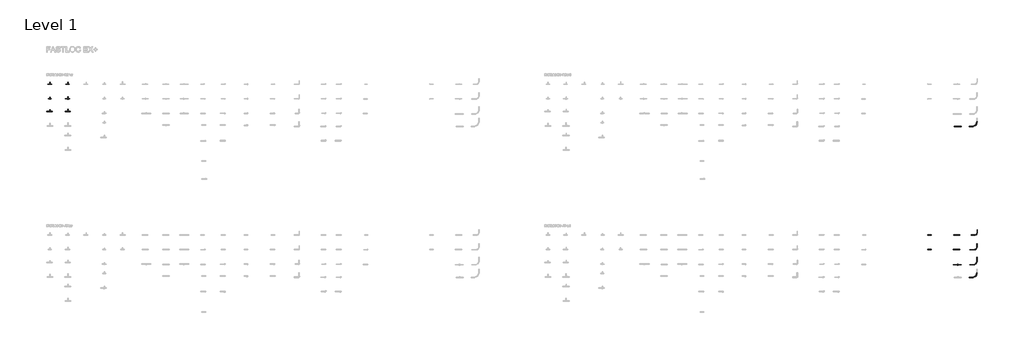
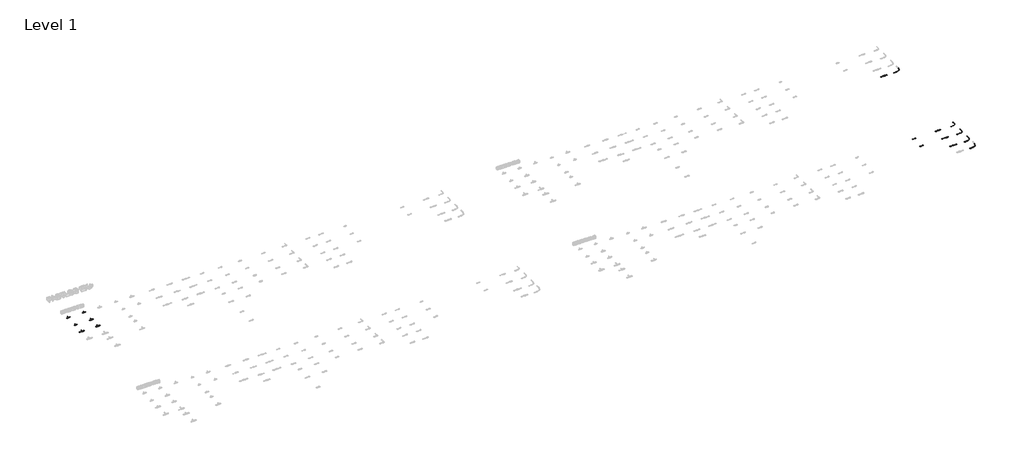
# One storey, part 10 of 16: 36 pipe segments, 21 pipe fittings.
"""IFC4 building model written with IfcOpenShell, lengths in millimetres."""

from ifc_helpers import new_model, si_unit, point, frame, frame_2d, origin, place, context, project, spatial, circle_curve, trimmed, segment, composite_curve, outline, extrude, transform, mapped, element, save
from components import pipe_fitting_c58dc389, pipe_fitting_6d1999ba, pipe_fitting_8a207ca9, pipe_fitting_749d9a03, pipe_fitting_c9c9eba3, pipe_fitting_037c3912, pipe_fitting_a8fbe6ac, pipe_fitting_373418fb, pipe_fitting_39b045f9, pipe_fitting_bf5c4f06, pipe_fitting_378a86a2, pipe_fitting_26206a52, pipe_fitting_e85672de, pipe_fitting_b8b68d19, pipe_fitting_24fba4d8, pipe_fitting_22a72f01, pipe_fitting_4892b1d5, pipe_fitting_48a19379, pipe_fitting_503ca6ef, pipe_fitting_0c2dddc6

model = new_model("IFC4")

# Units and contexts
model_context = context("Model", 3, world=origin())
ifc_project = project(units=[si_unit("LENGTHUNIT", "METRE", prefix="MILLI")], contexts=[model_context])

# Site, building, storey
site = spatial("IfcSite", under=ifc_project)
building = spatial("IfcBuilding", under=site)
storey = spatial("IfcBuildingStorey", under=building, Name="Level 1", Elevation=0.0)

# Pipe fittings
placement = place(None, origin())
pipe_fitting_shape = pipe_fitting_c58dc389(model_context)
element("IfcPipeFitting", 1, ObjectType="FASTLOC_Blanking plug EX+ : FSL Bp EX+ AT", at=placement, inside=storey, context=model_context, shape_type="MappedRepresentation", body=[
    mapped(pipe_fitting_shape, transform((49851.3241081, -6287.6479967, 0.0), x_axis=(1.0, 0.0, 0.0), y_axis=(0.0, 1.0, 0.0), z_axis=(0.0, 0.0, 1.0))),
])
pipe_fitting_2_shape = pipe_fitting_6d1999ba(model_context)
element("IfcPipeFitting", 2, ObjectType="FASTLOC_Adapter coupling EX+ : FSL TC EX+ AT", at=placement, inside=storey, context=model_context, shape_type="MappedRepresentation", body=[
    mapped(pipe_fitting_2_shape, transform((51491.3241081, -6287.6479967, 13.7), x_axis=(1.0, 0.0, 0.0), y_axis=(0.0, 1.0, 0.0), z_axis=(0.0, 0.0, 1.0))),
])
pipe_fitting_3_shape = pipe_fitting_8a207ca9(model_context)
element("IfcPipeFitting", 3, ObjectType="FASTLOC_ML_bend : FSL ML AT", at=placement, inside=storey, context=model_context, shape_type="MappedRepresentation", body=[
    mapped(pipe_fitting_3_shape, transform((52570.2040344, -6287.6479967, 0.0), x_axis=(1.0, 0.0, 0.0), y_axis=(0.0, 1.0, 0.0), z_axis=(0.0, 0.0, 1.0))),
])
pipe_fitting_4_shape = pipe_fitting_749d9a03(model_context)
element("IfcPipeFitting", 4, ObjectType="RAUTITAN_Sleeve PX : RTI S PX", at=placement, inside=storey, context=model_context, shape_type="MappedRepresentation", body=[
    mapped(pipe_fitting_4_shape, transform((51505.6241081, -7087.6479967, 13.7), x_axis=(1.0, 0.0, 0.0), y_axis=(0.0, 1.0, 0.0), z_axis=(0.0, 0.0, 1.0))),
])
pipe_fitting_5_shape = pipe_fitting_c9c9eba3(model_context)
element("IfcPipeFitting", 5, ObjectType="RAUTITAN_Sleeve PX : RTI S PX", at=placement, inside=storey, context=model_context, shape_type="MappedRepresentation", body=[
    mapped(pipe_fitting_5_shape, transform((51505.0241081, -6287.6479967, 13.7), x_axis=(1.0, 0.0, 0.0), y_axis=(0.0, 1.0, 0.0), z_axis=(0.0, 0.0, 1.0))),
])
pipe_fitting_6_shape = pipe_fitting_037c3912(model_context)
element("IfcPipeFitting", 6, ObjectType="RAUTITAN_Sleeve PX : RTI S PX", at=placement, inside=storey, context=model_context, shape_type="MappedRepresentation", body=[
    mapped(pipe_fitting_6_shape, transform((51507.9241081, -7918.854246, 13.7), x_axis=(1.0, 0.0, 0.0), y_axis=(0.0, 1.0, 0.0), z_axis=(0.0, 0.0, 1.0))),
])
pipe_fitting_7_shape = pipe_fitting_a8fbe6ac(model_context)
element("IfcPipeFitting", 7, ObjectType="RAUTITAN_Sleeve PX : RTI S PX", at=placement, inside=storey, context=model_context, shape_type="MappedRepresentation", body=[
    mapped(pipe_fitting_7_shape, transform((51510.6241081, -311.8142398, 13.7), x_axis=(1.0, 0.0, 0.0), y_axis=(0.0, 1.0, 0.0), z_axis=(0.0, 0.0, 1.0))),
])
pipe_fitting_8_shape = pipe_fitting_373418fb(model_context)
element("IfcPipeFitting", 8, ObjectType="FASTLOC_ML_bend : FSL ML DE", at=placement, inside=storey, context=model_context, shape_type="MappedRepresentation", body=[
    mapped(pipe_fitting_8_shape, transform((52570.2040344, -311.8142398, 0.0), x_axis=(1.0, 0.0, 0.0), y_axis=(0.0, 1.0, 0.0), z_axis=(0.0, 0.0, 1.0))),
])
pipe_fitting_9_shape = pipe_fitting_39b045f9(model_context)
element("IfcPipeFitting", 9, ObjectType="FASTLOC_ML_bend : FSL ML AT", at=placement, inside=storey, context=model_context, shape_type="MappedRepresentation", body=[
    mapped(pipe_fitting_9_shape, transform((52570.2040344, -7095.6479967, 0.0), x_axis=(1.0, 0.0, 0.0), y_axis=(0.0, 1.0, 0.0), z_axis=(0.0, 0.0, 1.0))),
])
pipe_fitting_10_shape = pipe_fitting_bf5c4f06(model_context)
element("IfcPipeFitting", 10, ObjectType="FASTLOC_ML_bend : FSL ML AT", at=placement, inside=storey, context=model_context, shape_type="MappedRepresentation", body=[
    mapped(pipe_fitting_10_shape, transform((52570.2040344, -7918.854246, 0.0), x_axis=(1.0, 0.0, 0.0), y_axis=(0.0, 1.0, 0.0), z_axis=(0.0, 0.0, 1.0))),
])
element("IfcPipeFitting", 11, ObjectType="FASTLOC_ML_bend : FSL ML AT", at=placement, inside=storey, context=model_context, shape_type="MappedRepresentation", body=[
    mapped(pipe_fitting_8_shape, transform((52570.2040344, -8611.8142398, 0.0), x_axis=(1.0, 0.0, 0.0), y_axis=(0.0, 1.0, 0.0), z_axis=(0.0, 0.0, 1.0))),
])
pipe_fitting_11_shape = pipe_fitting_378a86a2(model_context)
element("IfcPipeFitting", 12, ObjectType="FASTLOC_T-piece_EX+ : FSL T-Piece EX+ DE", at=placement, inside=storey, context=model_context, shape_type="MappedRepresentation", body=[
    mapped(pipe_fitting_11_shape, transform((1562.9146925, 2012.3520033, 0.0), x_axis=(1.0, 0.0, 0.0), y_axis=(0.0, 1.0, 0.0), z_axis=(0.0, 0.0, 1.0))),
])
pipe_fitting_12_shape = pipe_fitting_26206a52(model_context)
element("IfcPipeFitting", 13, ObjectType="FASTLOC_T-piece_EX+ : FSL T-Piece EX+ DE", at=placement, inside=storey, context=model_context, shape_type="MappedRepresentation", body=[
    mapped(pipe_fitting_12_shape, transform((1562.9146925, 1212.3520033, 0.0), x_axis=(1.0, 0.0, 0.0), y_axis=(0.0, 1.0, 0.0), z_axis=(0.0, 0.0, 1.0))),
])
pipe_fitting_13_shape = pipe_fitting_e85672de(model_context)
element("IfcPipeFitting", 14, ObjectType="FASTLOC_T-piece_EX+ : FSL T-Piece EX+ DE", at=placement, inside=storey, context=model_context, shape_type="MappedRepresentation", body=[
    mapped(pipe_fitting_13_shape, transform((1562.9146925, 512.3520033, 0.0), x_axis=(1.0, 0.0, 0.0), y_axis=(0.0, 1.0, 0.0), z_axis=(0.0, 0.0, 1.0))),
])
pipe_fitting_14_shape = pipe_fitting_b8b68d19(model_context)
element("IfcPipeFitting", 15, ObjectType="FASTLOC_T-piece_EX+ : FSL T-Piece EX+ DE", at=placement, inside=storey, context=model_context, shape_type="MappedRepresentation", body=[
    mapped(pipe_fitting_14_shape, transform((2562.9146925, 2012.3520033, 0.0), x_axis=(1.0, 0.0, 0.0), y_axis=(0.0, 1.0, 0.0), z_axis=(0.0, 0.0, 1.0))),
])
pipe_fitting_15_shape = pipe_fitting_24fba4d8(model_context)
element("IfcPipeFitting", 16, ObjectType="FASTLOC_T-piece_EX+ : FSL T-Piece EX+ DE", at=placement, inside=storey, context=model_context, shape_type="MappedRepresentation", body=[
    mapped(pipe_fitting_15_shape, transform((2562.9146925, 1212.3520033, 0.0), x_axis=(1.0, 0.0, 0.0), y_axis=(0.0, 1.0, 0.0), z_axis=(0.0, 0.0, 1.0))),
])
pipe_fitting_16_shape = pipe_fitting_22a72f01(model_context)
element("IfcPipeFitting", 17, ObjectType="FASTLOC_T-piece_EX+ : FSL T-Piece EX+ DE", at=placement, inside=storey, context=model_context, shape_type="MappedRepresentation", body=[
    mapped(pipe_fitting_16_shape, transform((2562.9146925, 512.3520033, 0.0), x_axis=(1.0, 0.0, 0.0), y_axis=(0.0, 1.0, 0.0), z_axis=(0.0, 0.0, 1.0))),
])
pipe_fitting_17_shape = pipe_fitting_4892b1d5(model_context)
element("IfcPipeFitting", 18, ObjectType="FASTLOC_Adapter coupling EX+ : FSL TC EX+ DE", at=placement, inside=storey, context=model_context, shape_type="MappedRepresentation", body=[
    mapped(pipe_fitting_17_shape, transform((51491.3241081, -311.8142398, 13.7), x_axis=(1.0, 0.0, 0.0), y_axis=(0.0, 1.0, 0.0), z_axis=(0.0, 0.0, 1.0))),
])
pipe_fitting_18_shape = pipe_fitting_48a19379(model_context)
element("IfcPipeFitting", 19, ObjectType="FASTLOC_Adapter coupling EX+ : FSL TC EX+ AT", at=placement, inside=storey, context=model_context, shape_type="MappedRepresentation", body=[
    mapped(pipe_fitting_18_shape, transform((51491.3241081, -7087.6479967, 13.7), x_axis=(1.0, 0.0, 0.0), y_axis=(0.0, 1.0, 0.0), z_axis=(0.0, 0.0, 1.0))),
])
pipe_fitting_19_shape = pipe_fitting_503ca6ef(model_context)
element("IfcPipeFitting", 20, ObjectType="FASTLOC_Adapter coupling EX+ : FSL TC EX+ AT", at=placement, inside=storey, context=model_context, shape_type="MappedRepresentation", body=[
    mapped(pipe_fitting_19_shape, transform((51491.3241081, -7918.854246, 13.7), x_axis=(1.0, 0.0, 0.0), y_axis=(0.0, 1.0, 0.0), z_axis=(0.0, 0.0, 1.0))),
])
pipe_fitting_20_shape = pipe_fitting_0c2dddc6(model_context)
element("IfcPipeFitting", 21, ObjectType="FASTLOC_Blanking plug EX+ : FSL Bp EX+ AT", at=placement, inside=storey, context=model_context, shape_type="MappedRepresentation", body=[
    mapped(pipe_fitting_20_shape, transform((49851.3241081, -7087.6479967, 0.0), x_axis=(1.0, 0.0, 0.0), y_axis=(0.0, 1.0, 0.0), z_axis=(0.0, 0.0, 1.0))),
])

# Pipe segments
element("IfcPipeSegment", 22, ObjectType="FASTLOC EX+ ML DE bar", at=placement, inside=storey, context=model_context, shape_type="SweptSolid", body=[
    extrude(outline(composite_curve([segment(trimmed(circle_curve(frame_2d((2012.3520033, 0.0)), 10.0), [point((2002.3520033, 0.0))], [point((2012.3520033, 10.0))], False, "CARTESIAN"), True, "CONTINUOUS"), segment(trimmed(circle_curve(frame_2d((2012.3520033, 0.0)), 10.0), [point((2012.3520033, 10.0))], [point((2022.3520033, 0.0))], False, "CARTESIAN"), True, "CONTINUOUS"), segment(trimmed(circle_curve(frame_2d((2012.3520033, 0.0)), 10.0), [point((2022.3520033, 0.0))], [point((2012.3520033, -10.0))], False, "CARTESIAN"), True, "CONTINUOUS"), segment(trimmed(circle_curve(frame_2d((2012.3520033, 0.0)), 10.0), [point((2012.3520033, -10.0))], [point((2002.3520033, 0.0))], False, "CARTESIAN"), True, "CONTINUOUS")], self_intersect=False)), frame((2578.2146925, 0.0, 0.0), z_axis=(1.0, 0.0, 0.0), x_axis=(0.0, 1.0, 0.0)), (0.0, 0.0, 1.0), 55.0),
])
element("IfcPipeSegment", 23, ObjectType="FASTLOC EX+ ML DE bar", at=placement, inside=storey, context=model_context, shape_type="SweptSolid", body=[
    extrude(outline(composite_curve([segment(trimmed(circle_curve(frame_2d((0.0, 2562.9146925)), 8.0), [point((0.0, 2570.9146925))], [point((8.0, 2562.9146925))], False, "CARTESIAN"), True, "CONTINUOUS"), segment(trimmed(circle_curve(frame_2d((0.0, 2562.9146925)), 8.0), [point((8.0, 2562.9146925))], [point((0.0, 2554.9146925))], False, "CARTESIAN"), True, "CONTINUOUS"), segment(trimmed(circle_curve(frame_2d((0.0, 2562.9146925)), 8.0), [point((0.0, 2554.9146925))], [point((-8.0, 2562.9146925))], False, "CARTESIAN"), True, "CONTINUOUS"), segment(trimmed(circle_curve(frame_2d((0.0, 2562.9146925)), 8.0), [point((-8.0, 2562.9146925))], [point((0.0, 2570.9146925))], False, "CARTESIAN"), True, "CONTINUOUS")], self_intersect=False)), frame((0.0, 2038.6520033, 0.0), z_axis=(0.0, 1.0, 0.0), x_axis=(0.0, 0.0, 1.0)), (0.0, 0.0, 1.0), 70.0),
])
element("IfcPipeSegment", 24, ObjectType="FASTLOC EX+ ML DE bar", at=placement, inside=storey, context=model_context, shape_type="SweptSolid", body=[
    extrude(outline(composite_curve([segment(trimmed(circle_curve(frame_2d((2012.3520033, 0.0)), 10.0), [point((2022.3520033, 0.0))], [point((2012.3520033, -10.0))], False, "CARTESIAN"), True, "CONTINUOUS"), segment(trimmed(circle_curve(frame_2d((2012.3520033, 0.0)), 10.0), [point((2012.3520033, -10.0))], [point((2002.3520033, 0.0))], False, "CARTESIAN"), True, "CONTINUOUS"), segment(trimmed(circle_curve(frame_2d((2012.3520033, 0.0)), 10.0), [point((2002.3520033, 0.0))], [point((2012.3520033, 10.0))], False, "CARTESIAN"), True, "CONTINUOUS"), segment(trimmed(circle_curve(frame_2d((2012.3520033, 0.0)), 10.0), [point((2012.3520033, 10.0))], [point((2022.3520033, 0.0))], False, "CARTESIAN"), True, "CONTINUOUS")], self_intersect=False)), frame((2437.6146925, 0.0, 0.0), z_axis=(1.0, 0.0, 0.0), x_axis=(0.0, 1.0, 0.0)), (0.0, 0.0, 1.0), 110.0),
])
element("IfcPipeSegment", 25, ObjectType="FASTLOC EX+ ML DE bar", at=placement, inside=storey, context=model_context, shape_type="SweptSolid", body=[
    extrude(outline(composite_curve([segment(trimmed(circle_curve(frame_2d((1212.3520033, 0.0)), 12.5), [point((1199.8520033, 0.0))], [point((1212.3520033, 12.5))], False, "CARTESIAN"), True, "CONTINUOUS"), segment(trimmed(circle_curve(frame_2d((1212.3520033, 0.0)), 12.5), [point((1212.3520033, 12.5))], [point((1224.8520033, 0.0))], False, "CARTESIAN"), True, "CONTINUOUS"), segment(trimmed(circle_curve(frame_2d((1212.3520033, 0.0)), 12.5), [point((1224.8520033, 0.0))], [point((1212.3520033, -12.5))], False, "CARTESIAN"), True, "CONTINUOUS"), segment(trimmed(circle_curve(frame_2d((1212.3520033, 0.0)), 12.5), [point((1212.3520033, -12.5))], [point((1199.8520033, 0.0))], False, "CARTESIAN"), True, "CONTINUOUS")], self_intersect=False)), frame((2581.0146925, 0.0, 0.0), z_axis=(1.0, 0.0, 0.0), x_axis=(0.0, 1.0, 0.0)), (0.0, 0.0, 1.0), 80.0),
])
element("IfcPipeSegment", 26, ObjectType="FASTLOC EX+ ML DE bar", at=placement, inside=storey, context=model_context, shape_type="SweptSolid", body=[
    extrude(outline(composite_curve([segment(trimmed(circle_curve(frame_2d((0.0, 2562.9146925)), 10.0), [point((0.0, 2572.9146925))], [point((10.0, 2562.9146925))], False, "CARTESIAN"), True, "CONTINUOUS"), segment(trimmed(circle_curve(frame_2d((0.0, 2562.9146925)), 10.0), [point((10.0, 2562.9146925))], [point((0.0, 2552.9146925))], False, "CARTESIAN"), True, "CONTINUOUS"), segment(trimmed(circle_curve(frame_2d((0.0, 2562.9146925)), 10.0), [point((0.0, 2552.9146925))], [point((-10.0, 2562.9146925))], False, "CARTESIAN"), True, "CONTINUOUS"), segment(trimmed(circle_curve(frame_2d((0.0, 2562.9146925)), 10.0), [point((-10.0, 2562.9146925))], [point((0.0, 2572.9146925))], False, "CARTESIAN"), True, "CONTINUOUS")], self_intersect=False)), frame((0.0, 1241.5520033, 0.0), z_axis=(0.0, 1.0, 0.0), x_axis=(0.0, 0.0, 1.0)), (0.0, 0.0, 1.0), 90.0),
])
element("IfcPipeSegment", 27, ObjectType="FASTLOC EX+ ML DE bar", at=placement, inside=storey, context=model_context, shape_type="SweptSolid", body=[
    extrude(outline(composite_curve([segment(trimmed(circle_curve(frame_2d((1212.3520033, 0.0)), 12.5), [point((1224.8520033, 0.0))], [point((1212.3520033, -12.5))], False, "CARTESIAN"), True, "CONTINUOUS"), segment(trimmed(circle_curve(frame_2d((1212.3520033, 0.0)), 12.5), [point((1212.3520033, -12.5))], [point((1199.8520033, 0.0))], False, "CARTESIAN"), True, "CONTINUOUS"), segment(trimmed(circle_curve(frame_2d((1212.3520033, 0.0)), 12.5), [point((1199.8520033, 0.0))], [point((1212.3520033, 12.5))], False, "CARTESIAN"), True, "CONTINUOUS"), segment(trimmed(circle_curve(frame_2d((1212.3520033, 0.0)), 12.5), [point((1212.3520033, 12.5))], [point((1224.8520033, 0.0))], False, "CARTESIAN"), True, "CONTINUOUS")], self_intersect=False)), frame((2409.8146925, 0.0, 0.0), z_axis=(1.0, 0.0, 0.0), x_axis=(0.0, 1.0, 0.0)), (0.0, 0.0, 1.0), 135.0),
])
element("IfcPipeSegment", 28, ObjectType="FASTLOC EX+ ML DE bar", at=placement, inside=storey, context=model_context, shape_type="SweptSolid", body=[
    extrude(outline(composite_curve([segment(trimmed(circle_curve(frame_2d((512.3520033, 0.0)), 16.0), [point((496.3520033, 0.0))], [point((512.3520033, 16.0))], False, "CARTESIAN"), True, "CONTINUOUS"), segment(trimmed(circle_curve(frame_2d((512.3520033, 0.0)), 16.0), [point((512.3520033, 16.0))], [point((528.3520033, 0.0))], False, "CARTESIAN"), True, "CONTINUOUS"), segment(trimmed(circle_curve(frame_2d((512.3520033, 0.0)), 16.0), [point((528.3520033, 0.0))], [point((512.3520033, -16.0))], False, "CARTESIAN"), True, "CONTINUOUS"), segment(trimmed(circle_curve(frame_2d((512.3520033, 0.0)), 16.0), [point((512.3520033, -16.0))], [point((496.3520033, 0.0))], False, "CARTESIAN"), True, "CONTINUOUS")], self_intersect=False)), frame((2581.2146925, 0.0, 0.0), z_axis=(1.0, 0.0, 0.0), x_axis=(0.0, 1.0, 0.0)), (0.0, 0.0, 1.0), 90.0),
])
element("IfcPipeSegment", 29, ObjectType="FASTLOC EX+ ML DE bar", at=placement, inside=storey, context=model_context, shape_type="SweptSolid", body=[
    extrude(outline(composite_curve([segment(trimmed(circle_curve(frame_2d((0.0, 2562.9146925)), 8.0), [point((0.0, 2570.9146925))], [point((8.0, 2562.9146925))], False, "CARTESIAN"), True, "CONTINUOUS"), segment(trimmed(circle_curve(frame_2d((0.0, 2562.9146925)), 8.0), [point((8.0, 2562.9146925))], [point((0.0, 2554.9146925))], False, "CARTESIAN"), True, "CONTINUOUS"), segment(trimmed(circle_curve(frame_2d((0.0, 2562.9146925)), 8.0), [point((0.0, 2554.9146925))], [point((-8.0, 2562.9146925))], False, "CARTESIAN"), True, "CONTINUOUS"), segment(trimmed(circle_curve(frame_2d((0.0, 2562.9146925)), 8.0), [point((-8.0, 2562.9146925))], [point((0.0, 2570.9146925))], False, "CARTESIAN"), True, "CONTINUOUS")], self_intersect=False)), frame((0.0, 546.2520033, 0.0), z_axis=(0.0, 1.0, 0.0), x_axis=(0.0, 0.0, 1.0)), (0.0, 0.0, 1.0), 90.0),
])
element("IfcPipeSegment", 30, ObjectType="FASTLOC EX+ ML DE bar", at=placement, inside=storey, context=model_context, shape_type="SweptSolid", body=[
    extrude(outline(composite_curve([segment(trimmed(circle_curve(frame_2d((512.3520033, 0.0)), 16.0), [point((528.3520033, 0.0))], [point((512.3520033, -16.0))], False, "CARTESIAN"), True, "CONTINUOUS"), segment(trimmed(circle_curve(frame_2d((512.3520033, 0.0)), 16.0), [point((512.3520033, -16.0))], [point((496.3520033, 0.0))], False, "CARTESIAN"), True, "CONTINUOUS"), segment(trimmed(circle_curve(frame_2d((512.3520033, 0.0)), 16.0), [point((496.3520033, 0.0))], [point((512.3520033, 16.0))], False, "CARTESIAN"), True, "CONTINUOUS"), segment(trimmed(circle_curve(frame_2d((512.3520033, 0.0)), 16.0), [point((512.3520033, 16.0))], [point((528.3520033, 0.0))], False, "CARTESIAN"), True, "CONTINUOUS")], self_intersect=False)), frame((2414.6146925, 0.0, 0.0), z_axis=(1.0, 0.0, 0.0), x_axis=(0.0, 1.0, 0.0)), (0.0, 0.0, 1.0), 130.0),
])
element("IfcPipeSegment", 31, ObjectType="FASTLOC EX+ ML DE bar", at=placement, inside=storey, context=model_context, shape_type="SweptSolid", body=[
    extrude(outline(composite_curve([segment(trimmed(circle_curve(frame_2d((0.0, 1562.9146925)), 12.5), [point((0.0, 1575.4146925))], [point((12.5, 1562.9146925))], False, "CARTESIAN"), True, "CONTINUOUS"), segment(trimmed(circle_curve(frame_2d((0.0, 1562.9146925)), 12.5), [point((12.5, 1562.9146925))], [point((0.0, 1550.4146925))], False, "CARTESIAN"), True, "CONTINUOUS"), segment(trimmed(circle_curve(frame_2d((0.0, 1562.9146925)), 12.5), [point((0.0, 1550.4146925))], [point((-12.5, 1562.9146925))], False, "CARTESIAN"), True, "CONTINUOUS"), segment(trimmed(circle_curve(frame_2d((0.0, 1562.9146925)), 12.5), [point((-12.5, 1562.9146925))], [point((0.0, 1575.4146925))], False, "CARTESIAN"), True, "CONTINUOUS")], self_intersect=False)), frame((0.0, 541.8520033, 0.0), z_axis=(0.0, 1.0, 0.0), x_axis=(0.0, 0.0, 1.0)), (0.0, 0.0, 1.0), 70.0),
])
element("IfcPipeSegment", 32, ObjectType="FASTLOC EX+ ML DE bar", at=placement, inside=storey, context=model_context, shape_type="SweptSolid", body=[
    extrude(outline(composite_curve([segment(trimmed(circle_curve(frame_2d((512.3520033, 0.0)), 12.5), [point((499.8520033, 0.0))], [point((512.3520033, 12.5))], False, "CARTESIAN"), True, "CONTINUOUS"), segment(trimmed(circle_curve(frame_2d((512.3520033, 0.0)), 12.5), [point((512.3520033, 12.5))], [point((524.8520033, 0.0))], False, "CARTESIAN"), True, "CONTINUOUS"), segment(trimmed(circle_curve(frame_2d((512.3520033, 0.0)), 12.5), [point((524.8520033, 0.0))], [point((512.3520033, -12.5))], False, "CARTESIAN"), True, "CONTINUOUS"), segment(trimmed(circle_curve(frame_2d((512.3520033, 0.0)), 12.5), [point((512.3520033, -12.5))], [point((499.8520033, 0.0))], False, "CARTESIAN"), True, "CONTINUOUS")], self_intersect=False)), frame((1582.8146925, 0.0, 0.0), z_axis=(1.0, 0.0, 0.0), x_axis=(0.0, 1.0, 0.0)), (0.0, 0.0, 1.0), 105.0),
])
element("IfcPipeSegment", 33, ObjectType="FASTLOC EX+ ML DE bar", at=placement, inside=storey, context=model_context, shape_type="SweptSolid", body=[
    extrude(outline(composite_curve([segment(trimmed(circle_curve(frame_2d((512.3520033, 0.0)), 12.5), [point((524.8520033, 0.0))], [point((512.3520033, -12.5))], False, "CARTESIAN"), True, "CONTINUOUS"), segment(trimmed(circle_curve(frame_2d((512.3520033, 0.0)), 12.5), [point((512.3520033, -12.5))], [point((499.8520033, 0.0))], False, "CARTESIAN"), True, "CONTINUOUS"), segment(trimmed(circle_curve(frame_2d((512.3520033, 0.0)), 12.5), [point((499.8520033, 0.0))], [point((512.3520033, 12.5))], False, "CARTESIAN"), True, "CONTINUOUS"), segment(trimmed(circle_curve(frame_2d((512.3520033, 0.0)), 12.5), [point((512.3520033, 12.5))], [point((524.8520033, 0.0))], False, "CARTESIAN"), True, "CONTINUOUS")], self_intersect=False)), frame((1378.0146925, 0.0, 0.0), z_axis=(1.0, 0.0, 0.0), x_axis=(0.0, 1.0, 0.0)), (0.0, 0.0, 1.0), 165.0),
])
element("IfcPipeSegment", 34, ObjectType="FASTLOC EX+ ML DE bar", at=placement, inside=storey, context=model_context, shape_type="SweptSolid", body=[
    extrude(outline(composite_curve([segment(trimmed(circle_curve(frame_2d((1212.3520033, 0.0)), 10.0), [point((1202.3520033, 0.0))], [point((1212.3520033, 10.0))], False, "CARTESIAN"), True, "CONTINUOUS"), segment(trimmed(circle_curve(frame_2d((1212.3520033, 0.0)), 10.0), [point((1212.3520033, 10.0))], [point((1222.3520033, 0.0))], False, "CARTESIAN"), True, "CONTINUOUS"), segment(trimmed(circle_curve(frame_2d((1212.3520033, 0.0)), 10.0), [point((1222.3520033, 0.0))], [point((1212.3520033, -10.0))], False, "CARTESIAN"), True, "CONTINUOUS"), segment(trimmed(circle_curve(frame_2d((1212.3520033, 0.0)), 10.0), [point((1212.3520033, -10.0))], [point((1202.3520033, 0.0))], False, "CARTESIAN"), True, "CONTINUOUS")], self_intersect=False)), frame((1580.1146925, 0.0, 0.0), z_axis=(1.0, 0.0, 0.0), x_axis=(0.0, 1.0, 0.0)), (0.0, 0.0, 1.0), 65.0),
])
element("IfcPipeSegment", 35, ObjectType="FASTLOC EX+ ML DE bar", at=placement, inside=storey, context=model_context, shape_type="SweptSolid", body=[
    extrude(outline(composite_curve([segment(trimmed(circle_curve(frame_2d((0.0, 1562.9146925)), 10.0), [point((0.0, 1572.9146925))], [point((10.0, 1562.9146925))], False, "CARTESIAN"), True, "CONTINUOUS"), segment(trimmed(circle_curve(frame_2d((0.0, 1562.9146925)), 10.0), [point((10.0, 1562.9146925))], [point((0.0, 1552.9146925))], False, "CARTESIAN"), True, "CONTINUOUS"), segment(trimmed(circle_curve(frame_2d((0.0, 1562.9146925)), 10.0), [point((0.0, 1552.9146925))], [point((-10.0, 1562.9146925))], False, "CARTESIAN"), True, "CONTINUOUS"), segment(trimmed(circle_curve(frame_2d((0.0, 1562.9146925)), 10.0), [point((-10.0, 1562.9146925))], [point((0.0, 1572.9146925))], False, "CARTESIAN"), True, "CONTINUOUS")], self_intersect=False)), frame((0.0, 1238.7520033, 0.0), z_axis=(0.0, 1.0, 0.0), x_axis=(0.0, 0.0, 1.0)), (0.0, 0.0, 1.0), 65.0),
])
element("IfcPipeSegment", 36, ObjectType="FASTLOC EX+ ML DE bar", at=placement, inside=storey, context=model_context, shape_type="SweptSolid", body=[
    extrude(outline(composite_curve([segment(trimmed(circle_curve(frame_2d((1212.3520033, 0.0)), 10.0), [point((1222.3520033, 0.0))], [point((1212.3520033, -10.0))], False, "CARTESIAN"), True, "CONTINUOUS"), segment(trimmed(circle_curve(frame_2d((1212.3520033, 0.0)), 10.0), [point((1212.3520033, -10.0))], [point((1202.3520033, 0.0))], False, "CARTESIAN"), True, "CONTINUOUS"), segment(trimmed(circle_curve(frame_2d((1212.3520033, 0.0)), 10.0), [point((1202.3520033, 0.0))], [point((1212.3520033, 10.0))], False, "CARTESIAN"), True, "CONTINUOUS"), segment(trimmed(circle_curve(frame_2d((1212.3520033, 0.0)), 10.0), [point((1212.3520033, 10.0))], [point((1222.3520033, 0.0))], False, "CARTESIAN"), True, "CONTINUOUS")], self_intersect=False)), frame((1460.7146925, 0.0, 0.0), z_axis=(1.0, 0.0, 0.0), x_axis=(0.0, 1.0, 0.0)), (0.0, 0.0, 1.0), 85.0),
])
element("IfcPipeSegment", 37, ObjectType="FASTLOC EX+ ML DE bar", at=placement, inside=storey, context=model_context, shape_type="SweptSolid", body=[
    extrude(outline(composite_curve([segment(trimmed(circle_curve(frame_2d((2012.3520033, 0.0)), 8.0), [point((2004.3520033, 0.0))], [point((2012.3520033, 8.0))], False, "CARTESIAN"), True, "CONTINUOUS"), segment(trimmed(circle_curve(frame_2d((2012.3520033, 0.0)), 8.0), [point((2012.3520033, 8.0))], [point((2020.3520033, 0.0))], False, "CARTESIAN"), True, "CONTINUOUS"), segment(trimmed(circle_curve(frame_2d((2012.3520033, 0.0)), 8.0), [point((2020.3520033, 0.0))], [point((2012.3520033, -8.0))], False, "CARTESIAN"), True, "CONTINUOUS"), segment(trimmed(circle_curve(frame_2d((2012.3520033, 0.0)), 8.0), [point((2012.3520033, -8.0))], [point((2004.3520033, 0.0))], False, "CARTESIAN"), True, "CONTINUOUS")], self_intersect=False)), frame((1577.9146925, 0.0, 0.0), z_axis=(1.0, 0.0, 0.0), x_axis=(0.0, 1.0, 0.0)), (0.0, 0.0, 1.0), 90.0),
])
element("IfcPipeSegment", 38, ObjectType="FASTLOC EX+ ML AT bar", at=placement, inside=storey, context=model_context, shape_type="SweptSolid", body=[
    extrude(outline(composite_curve([segment(trimmed(circle_curve(frame_2d((2012.3520033, 0.0)), 8.0), [point((2020.3520033, 0.0))], [point((2012.3520033, -8.0))], False, "CARTESIAN"), True, "CONTINUOUS"), segment(trimmed(circle_curve(frame_2d((2012.3520033, 0.0)), 8.0), [point((2012.3520033, -8.0))], [point((2004.3520033, 0.0))], False, "CARTESIAN"), True, "CONTINUOUS"), segment(trimmed(circle_curve(frame_2d((2012.3520033, 0.0)), 8.0), [point((2004.3520033, 0.0))], [point((2012.3520033, 8.0))], False, "CARTESIAN"), True, "CONTINUOUS"), segment(trimmed(circle_curve(frame_2d((2012.3520033, 0.0)), 8.0), [point((2012.3520033, 8.0))], [point((2020.3520033, 0.0))], False, "CARTESIAN"), True, "CONTINUOUS")], self_intersect=False)), frame((1457.9146925, 0.0, 0.0), z_axis=(1.0, 0.0, 0.0), x_axis=(0.0, 1.0, 0.0)), (0.0, 0.0, 1.0), 90.0),
])
element("IfcPipeSegment", 39, ObjectType="FASTLOC EX+ ML DE bar", at=placement, inside=storey, context=model_context, shape_type="SweptSolid", body=[
    extrude(outline(composite_curve([segment(trimmed(circle_curve(frame_2d((0.0, 1562.9146925)), 8.0), [point((0.0, 1570.9146925))], [point((8.0, 1562.9146925))], False, "CARTESIAN"), True, "CONTINUOUS"), segment(trimmed(circle_curve(frame_2d((0.0, 1562.9146925)), 8.0), [point((8.0, 1562.9146925))], [point((0.0, 1554.9146925))], False, "CARTESIAN"), True, "CONTINUOUS"), segment(trimmed(circle_curve(frame_2d((0.0, 1562.9146925)), 8.0), [point((0.0, 1554.9146925))], [point((-8.0, 1562.9146925))], False, "CARTESIAN"), True, "CONTINUOUS"), segment(trimmed(circle_curve(frame_2d((0.0, 1562.9146925)), 8.0), [point((-8.0, 1562.9146925))], [point((0.0, 1570.9146925))], False, "CARTESIAN"), True, "CONTINUOUS")], self_intersect=False)), frame((0.0, 2034.4520033, 0.0), z_axis=(0.0, 1.0, 0.0), x_axis=(0.0, 0.0, 1.0)), (0.0, 0.0, 1.0), 95.0),
])
element("IfcPipeSegment", 40, ObjectType="FASTLOC EX+ ML DE coil", at=placement, inside=storey, context=model_context, shape_type="SweptSolid", body=[
    extrude(outline(composite_curve([segment(trimmed(circle_curve(frame_2d((-311.8142398, 0.0)), 16.0), [point((-295.8142398, 0.0))], [point((-311.8142398, -16.0))], False, "CARTESIAN"), True, "CONTINUOUS"), segment(trimmed(circle_curve(frame_2d((-311.8142398, 0.0)), 16.0), [point((-311.8142398, -16.0))], [point((-327.8142398, 0.0))], False, "CARTESIAN"), True, "CONTINUOUS"), segment(trimmed(circle_curve(frame_2d((-311.8142398, 0.0)), 16.0), [point((-327.8142398, 0.0))], [point((-311.8142398, 16.0))], False, "CARTESIAN"), True, "CONTINUOUS"), segment(trimmed(circle_curve(frame_2d((-311.8142398, 0.0)), 16.0), [point((-311.8142398, 16.0))], [point((-295.8142398, 0.0))], False, "CARTESIAN"), True, "CONTINUOUS")], self_intersect=False)), frame((52130.2040344, 0.0, 0.0), z_axis=(1.0, 0.0, 0.0), x_axis=(0.0, 1.0, 0.0)), (0.0, 0.0, 1.0), 184.0),
])
element("IfcPipeSegment", 41, ObjectType="FASTLOC EX+ ML DE coil", at=placement, inside=storey, context=model_context, shape_type="SweptSolid", body=[
    extrude(outline(composite_curve([segment(trimmed(circle_curve(frame_2d((-311.8142398, 13.7)), 16.0), [point((-327.8142398, 13.7))], [point((-311.8142398, 29.7))], False, "CARTESIAN"), True, "CONTINUOUS"), segment(trimmed(circle_curve(frame_2d((-311.8142398, 13.7)), 16.0), [point((-311.8142398, 29.7))], [point((-295.8142398, 13.7))], False, "CARTESIAN"), True, "CONTINUOUS"), segment(trimmed(circle_curve(frame_2d((-311.8142398, 13.7)), 16.0), [point((-295.8142398, 13.7))], [point((-311.8142398, -2.3))], False, "CARTESIAN"), True, "CONTINUOUS"), segment(trimmed(circle_curve(frame_2d((-311.8142398, 13.7)), 16.0), [point((-311.8142398, -2.3))], [point((-327.8142398, 13.7))], False, "CARTESIAN"), True, "CONTINUOUS")], self_intersect=False)), frame((51510.6241081, 0.0, 0.0), z_axis=(1.0, 0.0, 0.0), x_axis=(0.0, 1.0, 0.0)), (0.0, 0.0, 1.0), 180.0),
])
element("IfcPipeSegment", 42, ObjectType="FASTLOC EX+ ML DE coil", at=placement, inside=storey, context=model_context, shape_type="SweptSolid", body=[
    extrude(outline(composite_curve([segment(trimmed(circle_curve(frame_2d((-311.8142398, 13.7)), 16.0), [point((-295.8142398, 13.7))], [point((-311.8142398, -2.3))], False, "CARTESIAN"), True, "CONTINUOUS"), segment(trimmed(circle_curve(frame_2d((-311.8142398, 13.7)), 16.0), [point((-311.8142398, -2.3))], [point((-327.8142398, 13.7))], False, "CARTESIAN"), True, "CONTINUOUS"), segment(trimmed(circle_curve(frame_2d((-311.8142398, 13.7)), 16.0), [point((-327.8142398, 13.7))], [point((-311.8142398, 29.7))], False, "CARTESIAN"), True, "CONTINUOUS"), segment(trimmed(circle_curve(frame_2d((-311.8142398, 13.7)), 16.0), [point((-311.8142398, 29.7))], [point((-295.8142398, 13.7))], False, "CARTESIAN"), True, "CONTINUOUS")], self_intersect=False)), frame((51305.8241081, 0.0, 0.0), z_axis=(1.0, 0.0, 0.0), x_axis=(0.0, 1.0, 0.0)), (0.0, 0.0, 1.0), 180.0),
])
element("IfcPipeSegment", 43, ObjectType="FASTLOC EX+ ML AT coil", at=placement, inside=storey, context=model_context, shape_type="SweptSolid", body=[
    extrude(outline(composite_curve([segment(trimmed(circle_curve(frame_2d((0.0, 52570.2040344)), 8.0), [point((0.0, 52578.2040344))], [point((8.0, 52570.2040344))], False, "CARTESIAN"), True, "CONTINUOUS"), segment(trimmed(circle_curve(frame_2d((0.0, 52570.2040344)), 8.0), [point((8.0, 52570.2040344))], [point((0.0, 52562.2040344))], False, "CARTESIAN"), True, "CONTINUOUS"), segment(trimmed(circle_curve(frame_2d((0.0, 52570.2040344)), 8.0), [point((0.0, 52562.2040344))], [point((-8.0, 52570.2040344))], False, "CARTESIAN"), True, "CONTINUOUS"), segment(trimmed(circle_curve(frame_2d((0.0, 52570.2040344)), 8.0), [point((-8.0, 52570.2040344))], [point((0.0, 52578.2040344))], False, "CARTESIAN"), True, "CONTINUOUS")], self_intersect=False)), frame((0.0, -6159.6479967, 0.0), z_axis=(0.0, 1.0, 0.0), x_axis=(0.0, 0.0, 1.0)), (0.0, 0.0, 1.0), 160.0),
])
element("IfcPipeSegment", 44, ObjectType="FASTLOC EX+ ML AT coil", at=placement, inside=storey, context=model_context, shape_type="SweptSolid", body=[
    extrude(outline(composite_curve([segment(trimmed(circle_curve(frame_2d((-6287.6479967, 0.0)), 8.0), [point((-6279.6479967, 0.0))], [point((-6287.6479967, -8.0))], False, "CARTESIAN"), True, "CONTINUOUS"), segment(trimmed(circle_curve(frame_2d((-6287.6479967, 0.0)), 8.0), [point((-6287.6479967, -8.0))], [point((-6295.6479967, 0.0))], False, "CARTESIAN"), True, "CONTINUOUS"), segment(trimmed(circle_curve(frame_2d((-6287.6479967, 0.0)), 8.0), [point((-6295.6479967, 0.0))], [point((-6287.6479967, 8.0))], False, "CARTESIAN"), True, "CONTINUOUS"), segment(trimmed(circle_curve(frame_2d((-6287.6479967, 0.0)), 8.0), [point((-6287.6479967, 8.0))], [point((-6279.6479967, 0.0))], False, "CARTESIAN"), True, "CONTINUOUS")], self_intersect=False)), frame((52250.2040344, 0.0, 0.0), z_axis=(1.0, 0.0, 0.0), x_axis=(0.0, 1.0, 0.0)), (0.0, 0.0, 1.0), 192.0),
])
element("IfcPipeSegment", 45, ObjectType="FASTLOC EX+ ML AT coil", at=placement, inside=storey, context=model_context, shape_type="SweptSolid", body=[
    extrude(outline(composite_curve([segment(trimmed(circle_curve(frame_2d((0.0, 52570.2040344)), 10.0), [point((0.0, 52580.2040344))], [point((10.0, 52570.2040344))], False, "CARTESIAN"), True, "CONTINUOUS"), segment(trimmed(circle_curve(frame_2d((0.0, 52570.2040344)), 10.0), [point((10.0, 52570.2040344))], [point((0.0, 52560.2040344))], False, "CARTESIAN"), True, "CONTINUOUS"), segment(trimmed(circle_curve(frame_2d((0.0, 52570.2040344)), 10.0), [point((0.0, 52560.2040344))], [point((-10.0, 52570.2040344))], False, "CARTESIAN"), True, "CONTINUOUS"), segment(trimmed(circle_curve(frame_2d((0.0, 52570.2040344)), 10.0), [point((-10.0, 52570.2040344))], [point((0.0, 52580.2040344))], False, "CARTESIAN"), True, "CONTINUOUS")], self_intersect=False)), frame((0.0, -6935.6479967, 0.0), z_axis=(0.0, 1.0, 0.0), x_axis=(0.0, 0.0, 1.0)), (0.0, 0.0, 1.0), 180.0),
])
element("IfcPipeSegment", 46, ObjectType="FASTLOC EX+ ML AT coil", at=placement, inside=storey, context=model_context, shape_type="SweptSolid", body=[
    extrude(outline(composite_curve([segment(trimmed(circle_curve(frame_2d((-7095.6479967, 0.0)), 10.0), [point((-7085.6479967, 0.0))], [point((-7095.6479967, -10.0))], False, "CARTESIAN"), True, "CONTINUOUS"), segment(trimmed(circle_curve(frame_2d((-7095.6479967, 0.0)), 10.0), [point((-7095.6479967, -10.0))], [point((-7105.6479967, 0.0))], False, "CARTESIAN"), True, "CONTINUOUS"), segment(trimmed(circle_curve(frame_2d((-7095.6479967, 0.0)), 10.0), [point((-7105.6479967, 0.0))], [point((-7095.6479967, 10.0))], False, "CARTESIAN"), True, "CONTINUOUS"), segment(trimmed(circle_curve(frame_2d((-7095.6479967, 0.0)), 10.0), [point((-7095.6479967, 10.0))], [point((-7085.6479967, 0.0))], False, "CARTESIAN"), True, "CONTINUOUS")], self_intersect=False)), frame((52170.2040344, 0.0, 0.0), z_axis=(1.0, 0.0, 0.0), x_axis=(0.0, 1.0, 0.0)), (0.0, 0.0, 1.0), 240.0),
])
element("IfcPipeSegment", 47, ObjectType="FASTLOC EX+ ML AT coil", at=placement, inside=storey, context=model_context, shape_type="SweptSolid", body=[
    extrude(outline(composite_curve([segment(trimmed(circle_curve(frame_2d((0.0, 52570.2040344)), 12.5), [point((0.0, 52582.7040344))], [point((12.5, 52570.2040344))], False, "CARTESIAN"), True, "CONTINUOUS"), segment(trimmed(circle_curve(frame_2d((0.0, 52570.2040344)), 12.5), [point((12.5, 52570.2040344))], [point((0.0, 52557.7040344))], False, "CARTESIAN"), True, "CONTINUOUS"), segment(trimmed(circle_curve(frame_2d((0.0, 52570.2040344)), 12.5), [point((0.0, 52557.7040344))], [point((-12.5, 52570.2040344))], False, "CARTESIAN"), True, "CONTINUOUS"), segment(trimmed(circle_curve(frame_2d((0.0, 52570.2040344)), 12.5), [point((-12.5, 52570.2040344))], [point((0.0, 52582.7040344))], False, "CARTESIAN"), True, "CONTINUOUS")], self_intersect=False)), frame((0.0, -7718.854246, 0.0), z_axis=(0.0, 1.0, 0.0), x_axis=(0.0, 0.0, 1.0)), (0.0, 0.0, 1.0), 200.0),
])
element("IfcPipeSegment", 48, ObjectType="FASTLOC EX+ ML AT coil", at=placement, inside=storey, context=model_context, shape_type="SweptSolid", body=[
    extrude(outline(composite_curve([segment(trimmed(circle_curve(frame_2d((-7918.854246, 0.0)), 12.5), [point((-7906.354246, 0.0))], [point((-7918.854246, -12.5))], False, "CARTESIAN"), True, "CONTINUOUS"), segment(trimmed(circle_curve(frame_2d((-7918.854246, 0.0)), 12.5), [point((-7918.854246, -12.5))], [point((-7931.354246, 0.0))], False, "CARTESIAN"), True, "CONTINUOUS"), segment(trimmed(circle_curve(frame_2d((-7918.854246, 0.0)), 12.5), [point((-7931.354246, 0.0))], [point((-7918.854246, 12.5))], False, "CARTESIAN"), True, "CONTINUOUS"), segment(trimmed(circle_curve(frame_2d((-7918.854246, 0.0)), 12.5), [point((-7918.854246, 12.5))], [point((-7906.354246, 0.0))], False, "CARTESIAN"), True, "CONTINUOUS")], self_intersect=False)), frame((52170.2040344, 0.0, 0.0), z_axis=(1.0, 0.0, 0.0), x_axis=(0.0, 1.0, 0.0)), (0.0, 0.0, 1.0), 200.0),
])
element("IfcPipeSegment", 49, ObjectType="FASTLOC EX+ ML AT coil", at=placement, inside=storey, context=model_context, shape_type="SweptSolid", body=[
    extrude(outline(composite_curve([segment(trimmed(circle_curve(frame_2d((-8611.8142398, 0.0)), 16.0), [point((-8595.8142398, 0.0))], [point((-8611.8142398, -16.0))], False, "CARTESIAN"), True, "CONTINUOUS"), segment(trimmed(circle_curve(frame_2d((-8611.8142398, 0.0)), 16.0), [point((-8611.8142398, -16.0))], [point((-8627.8142398, 0.0))], False, "CARTESIAN"), True, "CONTINUOUS"), segment(trimmed(circle_curve(frame_2d((-8611.8142398, 0.0)), 16.0), [point((-8627.8142398, 0.0))], [point((-8611.8142398, 16.0))], False, "CARTESIAN"), True, "CONTINUOUS"), segment(trimmed(circle_curve(frame_2d((-8611.8142398, 0.0)), 16.0), [point((-8611.8142398, 16.0))], [point((-8595.8142398, 0.0))], False, "CARTESIAN"), True, "CONTINUOUS")], self_intersect=False)), frame((52130.2040344, 0.0, 0.0), z_axis=(1.0, 0.0, 0.0), x_axis=(0.0, 1.0, 0.0)), (0.0, 0.0, 1.0), 184.0),
])
element("IfcPipeSegment", 50, ObjectType="FASTLOC EX+ ML AT coil", at=placement, inside=storey, context=model_context, shape_type="SweptSolid", body=[
    extrude(outline(composite_curve([segment(trimmed(circle_curve(frame_2d((-7918.854246, 13.7)), 12.5), [point((-7906.354246, 13.7))], [point((-7918.854246, 1.2))], False, "CARTESIAN"), True, "CONTINUOUS"), segment(trimmed(circle_curve(frame_2d((-7918.854246, 13.7)), 12.5), [point((-7918.854246, 1.2))], [point((-7931.354246, 13.7))], False, "CARTESIAN"), True, "CONTINUOUS"), segment(trimmed(circle_curve(frame_2d((-7918.854246, 13.7)), 12.5), [point((-7931.354246, 13.7))], [point((-7918.854246, 26.2))], False, "CARTESIAN"), True, "CONTINUOUS"), segment(trimmed(circle_curve(frame_2d((-7918.854246, 13.7)), 12.5), [point((-7918.854246, 26.2))], [point((-7906.354246, 13.7))], False, "CARTESIAN"), True, "CONTINUOUS")], self_intersect=False)), frame((51246.7241081, 0.0, 0.0), z_axis=(1.0, 0.0, 0.0), x_axis=(0.0, 1.0, 0.0)), (0.0, 0.0, 1.0), 240.0),
])
element("IfcPipeSegment", 51, ObjectType="FASTLOC EX+ ML AT coil", at=placement, inside=storey, context=model_context, shape_type="SweptSolid", body=[
    extrude(outline(composite_curve([segment(trimmed(circle_curve(frame_2d((-7918.854246, 13.7)), 12.5), [point((-7931.354246, 13.7))], [point((-7918.854246, 26.2))], False, "CARTESIAN"), True, "CONTINUOUS"), segment(trimmed(circle_curve(frame_2d((-7918.854246, 13.7)), 12.5), [point((-7918.854246, 26.2))], [point((-7906.354246, 13.7))], False, "CARTESIAN"), True, "CONTINUOUS"), segment(trimmed(circle_curve(frame_2d((-7918.854246, 13.7)), 12.5), [point((-7906.354246, 13.7))], [point((-7918.854246, 1.2))], False, "CARTESIAN"), True, "CONTINUOUS"), segment(trimmed(circle_curve(frame_2d((-7918.854246, 13.7)), 12.5), [point((-7918.854246, 1.2))], [point((-7931.354246, 13.7))], False, "CARTESIAN"), True, "CONTINUOUS")], self_intersect=False)), frame((51507.9241081, 0.0, 0.0), z_axis=(1.0, 0.0, 0.0), x_axis=(0.0, 1.0, 0.0)), (0.0, 0.0, 1.0), 182.7),
])
element("IfcPipeSegment", 52, ObjectType="FASTLOC EX+ ML AT coil", at=placement, inside=storey, context=model_context, shape_type="SweptSolid", body=[
    extrude(outline(composite_curve([segment(trimmed(circle_curve(frame_2d((-7087.6479967, 13.7)), 10.0), [point((-7097.6479967, 13.7))], [point((-7087.6479967, 23.7))], False, "CARTESIAN"), True, "CONTINUOUS"), segment(trimmed(circle_curve(frame_2d((-7087.6479967, 13.7)), 10.0), [point((-7087.6479967, 23.7))], [point((-7077.6479967, 13.7))], False, "CARTESIAN"), True, "CONTINUOUS"), segment(trimmed(circle_curve(frame_2d((-7087.6479967, 13.7)), 10.0), [point((-7077.6479967, 13.7))], [point((-7087.6479967, 3.7))], False, "CARTESIAN"), True, "CONTINUOUS"), segment(trimmed(circle_curve(frame_2d((-7087.6479967, 13.7)), 10.0), [point((-7087.6479967, 3.7))], [point((-7097.6479967, 13.7))], False, "CARTESIAN"), True, "CONTINUOUS")], self_intersect=False)), frame((51505.6241081, 0.0, 0.0), z_axis=(1.0, 0.0, 0.0), x_axis=(0.0, 1.0, 0.0)), (0.0, 0.0, 1.0), 120.0),
])
element("IfcPipeSegment", 53, ObjectType="FASTLOC EX+ ML AT coil", at=placement, inside=storey, context=model_context, shape_type="SweptSolid", body=[
    extrude(outline(composite_curve([segment(trimmed(circle_curve(frame_2d((-7087.6479967, 13.7)), 10.0), [point((-7077.6479967, 13.7))], [point((-7087.6479967, 3.7))], False, "CARTESIAN"), True, "CONTINUOUS"), segment(trimmed(circle_curve(frame_2d((-7087.6479967, 13.7)), 10.0), [point((-7087.6479967, 3.7))], [point((-7097.6479967, 13.7))], False, "CARTESIAN"), True, "CONTINUOUS"), segment(trimmed(circle_curve(frame_2d((-7087.6479967, 13.7)), 10.0), [point((-7097.6479967, 13.7))], [point((-7087.6479967, 23.7))], False, "CARTESIAN"), True, "CONTINUOUS"), segment(trimmed(circle_curve(frame_2d((-7087.6479967, 13.7)), 10.0), [point((-7087.6479967, 23.7))], [point((-7077.6479967, 13.7))], False, "CARTESIAN"), True, "CONTINUOUS")], self_intersect=False)), frame((51246.7241081, 0.0, 0.0), z_axis=(1.0, 0.0, 0.0), x_axis=(0.0, 1.0, 0.0)), (0.0, 0.0, 1.0), 240.3),
])
element("IfcPipeSegment", 54, ObjectType="FASTLOC EX+ ML AT coil", at=placement, inside=storey, context=model_context, shape_type="SweptSolid", body=[
    extrude(outline(composite_curve([segment(trimmed(circle_curve(frame_2d((-6287.6479967, 13.7)), 8.0), [point((-6295.6479967, 13.7))], [point((-6287.6479967, 21.7))], False, "CARTESIAN"), True, "CONTINUOUS"), segment(trimmed(circle_curve(frame_2d((-6287.6479967, 13.7)), 8.0), [point((-6287.6479967, 21.7))], [point((-6279.6479967, 13.7))], False, "CARTESIAN"), True, "CONTINUOUS"), segment(trimmed(circle_curve(frame_2d((-6287.6479967, 13.7)), 8.0), [point((-6279.6479967, 13.7))], [point((-6287.6479967, 5.7))], False, "CARTESIAN"), True, "CONTINUOUS"), segment(trimmed(circle_curve(frame_2d((-6287.6479967, 13.7)), 8.0), [point((-6287.6479967, 5.7))], [point((-6295.6479967, 13.7))], False, "CARTESIAN"), True, "CONTINUOUS")], self_intersect=False)), frame((51505.0241081, 0.0, 0.0), z_axis=(1.0, 0.0, 0.0), x_axis=(0.0, 1.0, 0.0)), (0.0, 0.0, 1.0), 120.6),
])
element("IfcPipeSegment", 55, ObjectType="FASTLOC EX+ ML AT coil", at=placement, inside=storey, context=model_context, shape_type="SweptSolid", body=[
    extrude(outline(composite_curve([segment(trimmed(circle_curve(frame_2d((-6287.6479967, 13.7)), 8.0), [point((-6279.6479967, 13.7))], [point((-6287.6479967, 5.7))], False, "CARTESIAN"), True, "CONTINUOUS"), segment(trimmed(circle_curve(frame_2d((-6287.6479967, 13.7)), 8.0), [point((-6287.6479967, 5.7))], [point((-6295.6479967, 13.7))], False, "CARTESIAN"), True, "CONTINUOUS"), segment(trimmed(circle_curve(frame_2d((-6287.6479967, 13.7)), 8.0), [point((-6295.6479967, 13.7))], [point((-6287.6479967, 21.7))], False, "CARTESIAN"), True, "CONTINUOUS"), segment(trimmed(circle_curve(frame_2d((-6287.6479967, 13.7)), 8.0), [point((-6287.6479967, 21.7))], [point((-6279.6479967, 13.7))], False, "CARTESIAN"), True, "CONTINUOUS")], self_intersect=False)), frame((51287.0241081, 0.0, 0.0), z_axis=(1.0, 0.0, 0.0), x_axis=(0.0, 1.0, 0.0)), (0.0, 0.0, 1.0), 200.0),
])
element("IfcPipeSegment", 56, ObjectType="FASTLOC EX+ ML AT coil", at=placement, inside=storey, context=model_context, shape_type="SweptSolid", body=[
    extrude(outline(composite_curve([segment(trimmed(circle_curve(frame_2d((-6287.6479967, 0.0)), 8.0), [point((-6295.6479967, 0.0))], [point((-6287.6479967, 8.0))], False, "CARTESIAN"), True, "CONTINUOUS"), segment(trimmed(circle_curve(frame_2d((-6287.6479967, 0.0)), 8.0), [point((-6287.6479967, 8.0))], [point((-6279.6479967, 0.0))], False, "CARTESIAN"), True, "CONTINUOUS"), segment(trimmed(circle_curve(frame_2d((-6287.6479967, 0.0)), 8.0), [point((-6279.6479967, 0.0))], [point((-6287.6479967, -8.0))], False, "CARTESIAN"), True, "CONTINUOUS"), segment(trimmed(circle_curve(frame_2d((-6287.6479967, 0.0)), 8.0), [point((-6287.6479967, -8.0))], [point((-6295.6479967, 0.0))], False, "CARTESIAN"), True, "CONTINUOUS")], self_intersect=False)), frame((49858.0241081, 0.0, 0.0), z_axis=(1.0, 0.0, 0.0), x_axis=(0.0, 1.0, 0.0)), (0.0, 0.0, 1.0), 180.0),
])
element("IfcPipeSegment", 57, ObjectType="FASTLOC EX+ ML AT coil", at=placement, inside=storey, context=model_context, shape_type="SweptSolid", body=[
    extrude(outline(composite_curve([segment(trimmed(circle_curve(frame_2d((-7087.6479967, 0.0)), 10.0), [point((-7097.6479967, 0.0))], [point((-7087.6479967, 10.0))], False, "CARTESIAN"), True, "CONTINUOUS"), segment(trimmed(circle_curve(frame_2d((-7087.6479967, 0.0)), 10.0), [point((-7087.6479967, 10.0))], [point((-7077.6479967, 0.0))], False, "CARTESIAN"), True, "CONTINUOUS"), segment(trimmed(circle_curve(frame_2d((-7087.6479967, 0.0)), 10.0), [point((-7077.6479967, 0.0))], [point((-7087.6479967, -10.0))], False, "CARTESIAN"), True, "CONTINUOUS"), segment(trimmed(circle_curve(frame_2d((-7087.6479967, 0.0)), 10.0), [point((-7087.6479967, -10.0))], [point((-7097.6479967, 0.0))], False, "CARTESIAN"), True, "CONTINUOUS")], self_intersect=False)), frame((49858.0241081, 0.0, 0.0), z_axis=(1.0, 0.0, 0.0), x_axis=(0.0, 1.0, 0.0)), (0.0, 0.0, 1.0), 200.0),
])

save(model, "model.ifc")
